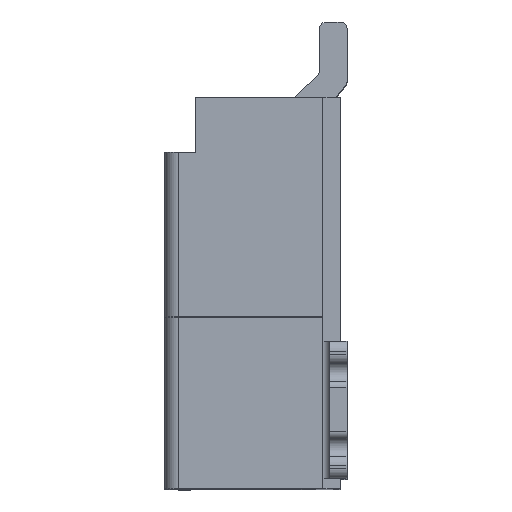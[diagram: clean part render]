
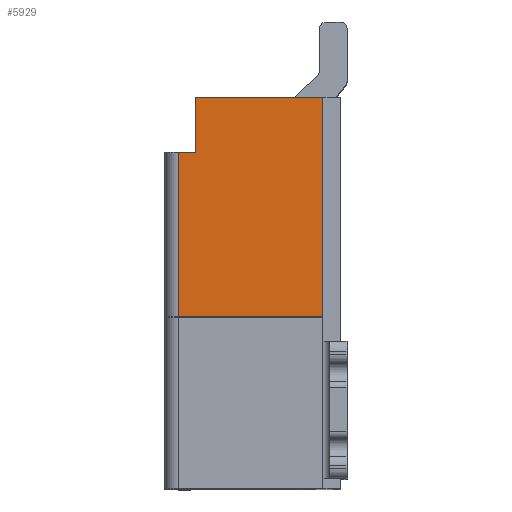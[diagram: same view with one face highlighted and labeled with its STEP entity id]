
A CAD part, top view. The second image highlights one B-rep face of the part: STEP entity #5929.
In plain terms, the highlighted planar face has unit normal (0, 0, 1).
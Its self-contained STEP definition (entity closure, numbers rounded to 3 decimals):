
#55 = CARTESIAN_POINT ( 'NONE',  ( 0.959, 3.445, 5.6 ) ) ;
#75 = CARTESIAN_POINT ( 'NONE',  ( -0.891, 2.645, 5.6 ) ) ;
#173 = CARTESIAN_POINT ( 'NONE',  ( 0., 0., 5.6 ) ) ;
#369 = VERTEX_POINT ( 'NONE', #55 ) ;
#764 = EDGE_CURVE ( 'NONE', #369, #8341, #1067, .T. ) ;
#1067 = LINE ( 'NONE', #4408, #9861 ) ;
#1074 = DIRECTION ( 'NONE',  ( 0., 1., 0. ) ) ;
#1355 = CARTESIAN_POINT ( 'NONE',  ( -1.141, 0.245, 5.6 ) ) ;
#1499 = LINE ( 'NONE', #7953, #5274 ) ;
#1683 = VECTOR ( 'NONE', #5815, 1000. ) ;
#1913 = CARTESIAN_POINT ( 'NONE',  ( 0.959, 3.445, 5.6 ) ) ;
#2073 = VERTEX_POINT ( 'NONE', #2850 ) ;
#2159 = ORIENTED_EDGE ( 'NONE', *, *, #2418, .F. ) ;
#2418 = EDGE_CURVE ( 'NONE', #369, #7973, #9405, .T. ) ;
#2749 = PLANE ( 'NONE',  #8224 ) ;
#2776 = CARTESIAN_POINT ( 'NONE',  ( -0.891, 3.445, 5.6 ) ) ;
#2850 = CARTESIAN_POINT ( 'NONE',  ( -1.141, 0.245, 5.6 ) ) ;
#3267 = CARTESIAN_POINT ( 'NONE',  ( -1.141, 2.645, 5.6 ) ) ;
#3305 = CARTESIAN_POINT ( 'NONE',  ( 1.209, 0.245, 5.6 ) ) ;
#3828 = EDGE_CURVE ( 'NONE', #8837, #2073, #8800, .T. ) ;
#4077 = EDGE_LOOP ( 'NONE', ( #8986, #9989, #5639, #2159, #8253, #6919 ) ) ;
#4408 = CARTESIAN_POINT ( 'NONE',  ( -1.341, 3.445, 5.6 ) ) ;
#4834 = DIRECTION ( 'NONE',  ( 1., 0., 0. ) ) ;
#5274 = VECTOR ( 'NONE', #4834, 1000. ) ;
#5320 = EDGE_CURVE ( 'NONE', #8837, #5426, #1499, .T. ) ;
#5376 = VECTOR ( 'NONE', #1074, 1000. ) ;
#5426 = VERTEX_POINT ( 'NONE', #75 ) ;
#5639 = ORIENTED_EDGE ( 'NONE', *, *, #9397, .F. ) ;
#5815 = DIRECTION ( 'NONE',  ( -1., 0., 0. ) ) ;
#5929 = ADVANCED_FACE ( 'NONE', ( #6896 ), #2749, .T. ) ;
#6896 = FACE_OUTER_BOUND ( 'NONE', #4077, .T. ) ;
#6919 = ORIENTED_EDGE ( 'NONE', *, *, #8966, .F. ) ;
#6952 = DIRECTION ( 'NONE',  ( 1., 0., 0. ) ) ;
#6981 = CARTESIAN_POINT ( 'NONE',  ( 0.959, 0.245, 5.6 ) ) ;
#7083 = VECTOR ( 'NONE', #8018, 1000. ) ;
#7384 = VECTOR ( 'NONE', #7861, 1000. ) ;
#7622 = CARTESIAN_POINT ( 'NONE',  ( -0.891, 3.445, 5.6 ) ) ;
#7733 = DIRECTION ( 'NONE',  ( -1., 0., 0. ) ) ;
#7861 = DIRECTION ( 'NONE',  ( 0., -1., 0. ) ) ;
#7953 = CARTESIAN_POINT ( 'NONE',  ( -1.341, 2.645, 5.6 ) ) ;
#7973 = VERTEX_POINT ( 'NONE', #6981 ) ;
#8018 = DIRECTION ( 'NONE',  ( 0., -1., 0. ) ) ;
#8224 = AXIS2_PLACEMENT_3D ( 'NONE', #173, #10240, #6952 ) ;
#8253 = ORIENTED_EDGE ( 'NONE', *, *, #764, .T. ) ;
#8276 = LINE ( 'NONE', #3305, #1683 ) ;
#8341 = VERTEX_POINT ( 'NONE', #7622 ) ;
#8800 = LINE ( 'NONE', #1355, #7083 ) ;
#8837 = VERTEX_POINT ( 'NONE', #3267 ) ;
#8966 = EDGE_CURVE ( 'NONE', #5426, #8341, #10426, .T. ) ;
#8986 = ORIENTED_EDGE ( 'NONE', *, *, #5320, .F. ) ;
#9397 = EDGE_CURVE ( 'NONE', #7973, #2073, #8276, .T. ) ;
#9405 = LINE ( 'NONE', #1913, #7384 ) ;
#9861 = VECTOR ( 'NONE', #7733, 1000. ) ;
#9989 = ORIENTED_EDGE ( 'NONE', *, *, #3828, .T. ) ;
#10240 = DIRECTION ( 'NONE',  ( 0., 0., 1. ) ) ;
#10426 = LINE ( 'NONE', #2776, #5376 ) ;
